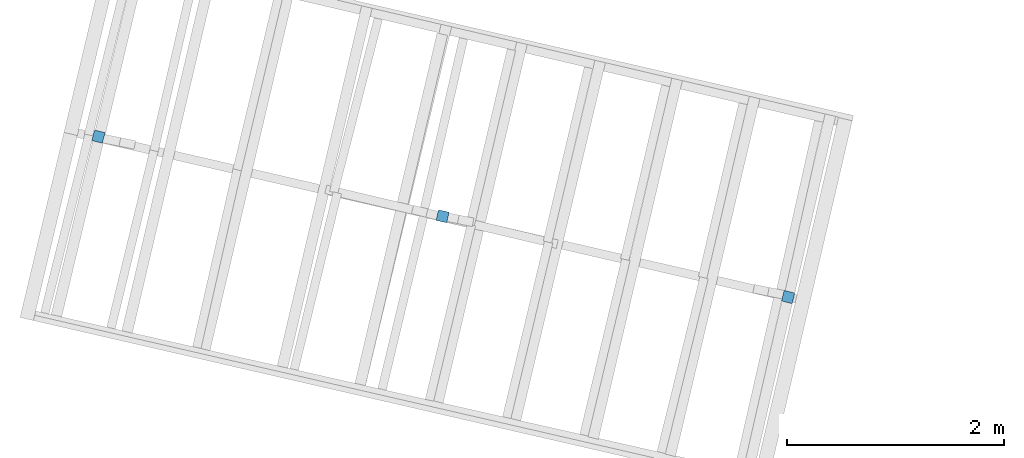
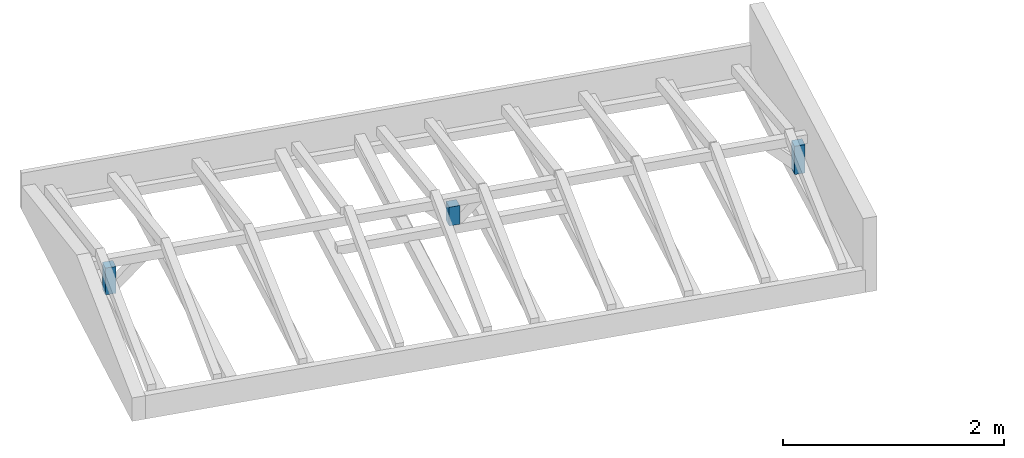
# One storey, part 3 of 158: 3 columns.
"""IFC2X3 building model written with IfcOpenShell, lengths in metres."""

from ifc_helpers import new_model, entity, si_unit, converted_unit, derived_unit, money_unit, direction, frame, origin_with_axes, origin_2d_with_axis, place, context, subcontext, project, spatial, rectangle, extrude, material, type_object, element, save


model = new_model("IFC2X3")

# Units and contexts
model_context = context("Model", 3, precision=1e-05, world=origin_with_axes(), true_north=direction((0.0, 1.0)))
body_context = subcontext(model_context, "Body", "Model", "MODEL_VIEW")
ifc_project = project(units=[si_unit("LENGTHUNIT", "METRE"), si_unit("AREAUNIT", "SQUARE_METRE"), si_unit("VOLUMEUNIT", "CUBIC_METRE"), converted_unit("PLANEANGLEUNIT", "DEGREE", entity("IfcPlaneAngleMeasure", 0.0174532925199), si_unit("PLANEANGLEUNIT", "RADIAN"), dimensions=[0, 0, 0, 0, 0, 0, 0]), money_unit("EUR"), converted_unit("TIMEUNIT", "Year", entity("IfcTimeMeasure", 31556926.0), si_unit("TIMEUNIT", "SECOND"), dimensions=[0, 0, 1, 0, 0, 0, 0]), si_unit("MASSUNIT", "GRAM", prefix="KILO"), si_unit("THERMODYNAMICTEMPERATUREUNIT", "DEGREE_CELSIUS"), si_unit("LUMINOUSINTENSITYUNIT", "LUMEN"), si_unit("ENERGYUNIT", "JOULE", prefix="MEGA"), derived_unit("THERMALCONDUCTANCEUNIT", [(si_unit("POWERUNIT", "WATT"), 1), (si_unit("LENGTHUNIT", "METRE"), -1), (si_unit("THERMODYNAMICTEMPERATUREUNIT", "KELVIN"), -1)]), derived_unit("SPECIFICHEATCAPACITYUNIT", [(si_unit("ENERGYUNIT", "JOULE"), 1), (si_unit("MASSUNIT", "GRAM", prefix="KILO"), -1), (si_unit("THERMODYNAMICTEMPERATUREUNIT", "KELVIN"), -1)]), derived_unit("MASSDENSITYUNIT", [(si_unit("MASSUNIT", "GRAM", prefix="KILO"), 1), (si_unit("VOLUMEUNIT", "CUBIC_METRE"), -1)])], contexts=[model_context])

# Site, building, storey
site_placement = place(None, origin_with_axes())
site = spatial("IfcSite", under=ifc_project, at=site_placement, Name="Gelände", CompositionType="ELEMENT")
building_placement = place(site_placement, origin_with_axes())
building = spatial("IfcBuilding", under=site, at=building_placement, Name="Gebäude", CompositionType="ELEMENT")
storey_placement = place(building_placement, origin_with_axes())
storey = spatial("IfcBuildingStorey", under=building, at=storey_placement, Name="ERDGESCHOSS", CompositionType="ELEMENT", Elevation=0.0)

# Columns
ifc_material = material(Name="05_ALLGEMEIN - TRAGENDE BAUTEILE")
column_type = type_object("IfcColumnType", Name="05_ALLGEMEIN - TRAGENDE BAUTEILE 100 x 100", PredefinedType="USERDEFINED")
column_1_placement = place(storey_placement, frame((-68.0229007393, 70.9625901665, 0.38533519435), z_axis=(0.0, 0.0, 1.0), x_axis=(1.0, 0.0, 0.0)))
element("IfcColumn", 1, at=column_1_placement, inside=storey, type_object=column_type, material=ifc_material, Name="Stütze-008", ObjectType="PILASTER", context=body_context, shape_type="SweptSolid", body=[
    extrude(rectangle(XDim=0.1, YDim=0.1, at=origin_2d_with_axis()), frame((0.0, 0.0, 0.0), z_axis=(0.0, 0.0, 1.0), x_axis=(0.976395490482, -0.215990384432, 0.0)), (0.0, 0.0, 1.0), 0.207449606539),
])
column_2_placement = place(storey_placement, frame((-64.8383633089, 70.2189143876, 0.289322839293), z_axis=(0.0, 0.0, 1.0), x_axis=(1.0, 0.0, 0.0)))
element("IfcColumn", 2, at=column_2_placement, inside=storey, type_object=column_type, material=ifc_material, Name="Stütze-008", ObjectType="PILASTER", context=body_context, shape_type="SweptSolid", body=[
    extrude(rectangle(XDim=0.1, YDim=0.1, at=origin_2d_with_axis()), frame((0.0, 0.0, 0.0), z_axis=(0.0, 0.0, 1.0), x_axis=(0.969394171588, -0.245509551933, 0.0)), (0.0, 0.0, 1.0), 0.312647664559),
])
column_3_placement = place(storey_placement, frame((-71.1946571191, 71.6973916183, 0.287507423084), z_axis=(0.0, 0.0, 1.0), x_axis=(1.0, 0.0, 0.0)))
element("IfcColumn", 3, at=column_3_placement, inside=storey, type_object=column_type, material=ifc_material, Name="Stütze-008", ObjectType="PILASTER", context=body_context, shape_type="SweptSolid", body=[
    extrude(rectangle(XDim=0.1, YDim=0.1, at=origin_2d_with_axis()), frame((0.0, 0.0, 0.0), z_axis=(0.0, 0.0, 1.0), x_axis=(0.969394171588, -0.245509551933, 0.0)), (0.0, 0.0, 1.0), 0.296199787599),
])

save(model, "model.ifc")
